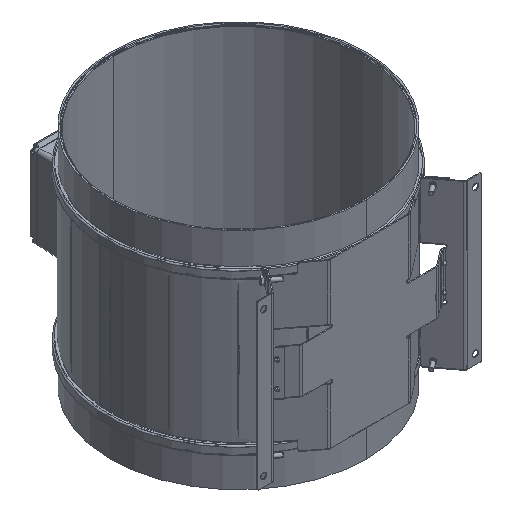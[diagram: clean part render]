
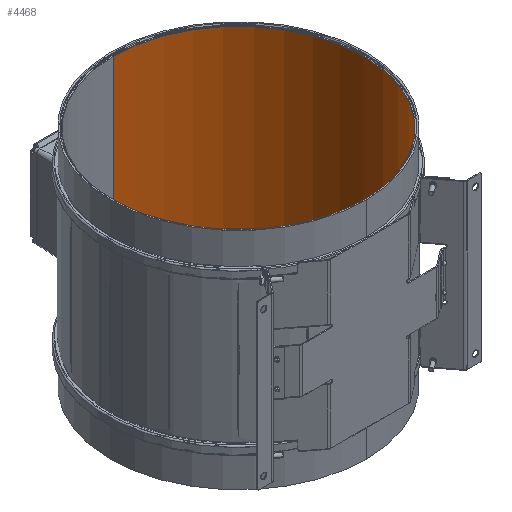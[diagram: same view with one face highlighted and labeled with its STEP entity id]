
A CAD part, isometric view. The second image highlights one B-rep face of the part: STEP entity #4468.
In plain terms, the highlighted cylindrical face has radius 194.655 mm (diameter 389.31 mm), a partial arc.
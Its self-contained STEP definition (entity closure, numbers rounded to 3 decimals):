
#107 = CARTESIAN_POINT ( 'NONE',  ( 194.655, 0., -111.362 ) ) ;
#235 = CARTESIAN_POINT ( 'NONE',  ( 0., -194.655, -458.362 ) ) ;
#273 = CARTESIAN_POINT ( 'NONE',  ( 7.5, 194.51, -331.862 ) ) ;
#2331 = DIRECTION ( 'NONE',  ( 0., 0., 1. ) ) ;
#3046 = CARTESIAN_POINT ( 'NONE',  ( 7.5, 194.51, -851.452 ) ) ;
#3556 = VERTEX_POINT ( 'NONE', #26568 ) ;
#3586 = VERTEX_POINT ( 'NONE', #27114 ) ;
#3591 = VERTEX_POINT ( 'NONE', #26605 ) ;
#3680 = VERTEX_POINT ( 'NONE', #26690 ) ;
#3681 = VERTEX_POINT ( 'NONE', #26695 ) ;
#4468 = ADVANCED_FACE ( 'NONE', ( #37453 ), #37440, .F. ) ;
#4801 = AXIS2_PLACEMENT_3D ( 'NONE', #8715, #8587, #8544 ) ;
#5606 = VECTOR ( 'NONE', #2331, 1000. ) ;
#5793 = LINE ( 'NONE', #3046, #5606 ) ;
#5880 = LINE ( 'NONE', #8557, #5941 ) ;
#5941 = VECTOR ( 'NONE', #8651, 1000. ) ;
#8544 = DIRECTION ( 'NONE',  ( 1., 0., 0. ) ) ;
#8557 = CARTESIAN_POINT ( 'NONE',  ( 0., -194.655, 0. ) ) ;
#8587 = DIRECTION ( 'NONE',  ( 0., 0., 1. ) ) ;
#8651 = DIRECTION ( 'NONE',  ( 0., 0., 1. ) ) ;
#8715 = CARTESIAN_POINT ( 'NONE',  ( 0., 0., -111.362 ) ) ;
#10516 = ORIENTED_EDGE ( 'NONE', *, *, #22758, .F. ) ;
#10754 = ORIENTED_EDGE ( 'NONE', *, *, #35493, .F. ) ;
#10866 = ORIENTED_EDGE ( 'NONE', *, *, #35306, .T. ) ;
#11112 = ORIENTED_EDGE ( 'NONE', *, *, #35176, .F. ) ;
#11129 = ORIENTED_EDGE ( 'NONE', *, *, #35173, .F. ) ;
#11215 = ORIENTED_EDGE ( 'NONE', *, *, #35708, .F. ) ;
#11281 = ORIENTED_EDGE ( 'NONE', *, *, #23000, .T. ) ;
#12253 = ORIENTED_EDGE ( 'NONE', *, *, #22744, .F. ) ;
#13366 = EDGE_LOOP ( 'NONE', ( #11129, #11281, #10866, #14310, #13921, #11112, #11215, #10754, #10516, #12253 ) ) ;
#13921 = ORIENTED_EDGE ( 'NONE', *, *, #35269, .T. ) ;
#14310 = ORIENTED_EDGE ( 'NONE', *, *, #23720, .T. ) ;
#16054 = AXIS2_PLACEMENT_3D ( 'NONE', #32624, #31570, #31695 ) ;
#16468 = AXIS2_PLACEMENT_3D ( 'NONE', #20833, #20904, #21050 ) ;
#16818 = AXIS2_PLACEMENT_3D ( 'NONE', #26084, #26912, #26614 ) ;
#17033 = CIRCLE ( 'NONE', #16468, 194.655 ) ;
#17341 = CIRCLE ( 'NONE', #16054, 194.655 ) ;
#20484 = CARTESIAN_POINT ( 'NONE',  ( 7.004, 194.529, -344.235 ) ) ;
#20561 = CARTESIAN_POINT ( 'NONE',  ( 6.762, 194.538, -344.336 ) ) ;
#20574 = CARTESIAN_POINT ( 'NONE',  ( 7.5, 194.51, -343.626 ) ) ;
#20618 = CARTESIAN_POINT ( 'NONE',  ( 7.391, 194.515, -343.885 ) ) ;
#20833 = CARTESIAN_POINT ( 'NONE',  ( 0., 0., -344.362 ) ) ;
#20835 = CARTESIAN_POINT ( 'NONE',  ( 6.632, 194.542, -344.362 ) ) ;
#20904 = DIRECTION ( 'NONE',  ( 0., 0., -1. ) ) ;
#20997 = CARTESIAN_POINT ( 'NONE',  ( 6.5, 194.546, -344.362 ) ) ;
#21023 = CARTESIAN_POINT ( 'NONE',  ( 7.114, 194.525, -344.161 ) ) ;
#21050 = DIRECTION ( 'NONE',  ( -1., 0., 0. ) ) ;
#21194 = CARTESIAN_POINT ( 'NONE',  ( 7.5, 194.51, -343.362 ) ) ;
#22744 = EDGE_CURVE ( 'NONE', #3586, #31780, #17033, .T. ) ;
#22758 = EDGE_CURVE ( 'NONE', #31780, #3556, #35799, .T. ) ;
#23000 = EDGE_CURVE ( 'NONE', #3680, #31806, #17341, .T. ) ;
#23720 = EDGE_CURVE ( 'NONE', #32679, #32732, #33547, .T. ) ;
#26084 = CARTESIAN_POINT ( 'NONE',  ( 0., 0., -111.362 ) ) ;
#26568 = CARTESIAN_POINT ( 'NONE',  ( 7.5, 194.51, -343.362 ) ) ;
#26605 = CARTESIAN_POINT ( 'NONE',  ( 0., 194.655, -324.362 ) ) ;
#26614 = DIRECTION ( 'NONE',  ( 1., 0., 0. ) ) ;
#26690 = CARTESIAN_POINT ( 'NONE',  ( 0., 194.655, -458.362 ) ) ;
#26695 = CARTESIAN_POINT ( 'NONE',  ( 0., 194.655, -111.362 ) ) ;
#26864 = DIRECTION ( 'NONE',  ( 0., 0., 1. ) ) ;
#26874 = CARTESIAN_POINT ( 'NONE',  ( 0., 0., 0. ) ) ;
#26882 = DIRECTION ( 'NONE',  ( 0., -1., 0. ) ) ;
#26912 = DIRECTION ( 'NONE',  ( 0., 0., 1. ) ) ;
#27114 = CARTESIAN_POINT ( 'NONE',  ( 0., 194.655, -344.362 ) ) ;
#29185 = CARTESIAN_POINT ( 'NONE',  ( 7.5, 194.51, -331.862 ) ) ;
#29364 = CARTESIAN_POINT ( 'NONE',  ( 7.451, 194.512, -330.879 ) ) ;
#29369 = CARTESIAN_POINT ( 'NONE',  ( 7.5, 194.51, -331.366 ) ) ;
#29383 = CARTESIAN_POINT ( 'NONE',  ( 5.967, 194.564, -327.292 ) ) ;
#29387 = CARTESIAN_POINT ( 'NONE',  ( 6.511, 194.546, -328.107 ) ) ;
#29391 = CARTESIAN_POINT ( 'NONE',  ( 6.741, 194.538, -328.537 ) ) ;
#29394 = CARTESIAN_POINT ( 'NONE',  ( 7.023, 194.528, -329.218 ) ) ;
#29397 = CARTESIAN_POINT ( 'NONE',  ( 7.107, 194.525, -329.452 ) ) ;
#29400 = CARTESIAN_POINT ( 'NONE',  ( 7.249, 194.52, -329.923 ) ) ;
#29405 = CARTESIAN_POINT ( 'NONE',  ( 7.309, 194.518, -330.161 ) ) ;
#29581 = CARTESIAN_POINT ( 'NONE',  ( 5.651, 194.573, -326.906 ) ) ;
#29627 = CARTESIAN_POINT ( 'NONE',  ( 3.968, 194.615, -325.493 ) ) ;
#29631 = CARTESIAN_POINT ( 'NONE',  ( 2.421, 194.64, -324.759 ) ) ;
#29749 = CARTESIAN_POINT ( 'NONE',  ( 4.96, 194.592, -326.214 ) ) ;
#29750 = CARTESIAN_POINT ( 'NONE',  ( 3.755, 194.619, -325.365 ) ) ;
#29751 = CARTESIAN_POINT ( 'NONE',  ( 2.881, 194.634, -324.924 ) ) ;
#29753 = CARTESIAN_POINT ( 'NONE',  ( 4.582, 194.601, -325.904 ) ) ;
#29755 = CARTESIAN_POINT ( 'NONE',  ( 1.952, 194.645, -324.616 ) ) ;
#29770 = CARTESIAN_POINT ( 'NONE',  ( 1.712, 194.648, -324.555 ) ) ;
#29772 = CARTESIAN_POINT ( 'NONE',  ( 0.985, 194.653, -324.41 ) ) ;
#29773 = CARTESIAN_POINT ( 'NONE',  ( 3.323, 194.627, -325.133 ) ) ;
#29774 = CARTESIAN_POINT ( 'NONE',  ( 0.495, 194.655, -324.362 ) ) ;
#29775 = CARTESIAN_POINT ( 'NONE',  ( 0., 194.655, -324.362 ) ) ;
#31570 = DIRECTION ( 'NONE',  ( 0., 0., -1. ) ) ;
#31695 = DIRECTION ( 'NONE',  ( 0., 1., 0. ) ) ;
#31780 = VERTEX_POINT ( 'NONE', #40625 ) ;
#31806 = VERTEX_POINT ( 'NONE', #235 ) ;
#32624 = CARTESIAN_POINT ( 'NONE',  ( 0., 0., -458.362 ) ) ;
#32679 = VERTEX_POINT ( 'NONE', #40559 ) ;
#32732 = VERTEX_POINT ( 'NONE', #107 ) ;
#32845 = VERTEX_POINT ( 'NONE', #273 ) ;
#33547 = CIRCLE ( 'NONE', #16818, 194.655 ) ;
#35173 = EDGE_CURVE ( 'NONE', #3680, #3586, #36638, .T. ) ;
#35176 = EDGE_CURVE ( 'NONE', #3591, #3681, #36715, .T. ) ;
#35269 = EDGE_CURVE ( 'NONE', #32732, #3681, #37031, .T. ) ;
#35306 = EDGE_CURVE ( 'NONE', #31806, #32679, #5880, .T. ) ;
#35493 = EDGE_CURVE ( 'NONE', #3556, #32845, #5793, .T. ) ;
#35708 = EDGE_CURVE ( 'NONE', #32845, #3591, #36382, .T. ) ;
#35799 = B_SPLINE_CURVE_WITH_KNOTS ( 'NONE', 3,
 ( #20997, #20835, #20561, #20484, #21023, #20618, #20574, #21194 ),
 .UNSPECIFIED., .F., .F.,
 ( 4, 2, 2, 4 ),
 ( 0., 0., 0.001, 0.002 ),
 .UNSPECIFIED. ) ;
#36382 = B_SPLINE_CURVE_WITH_KNOTS ( 'NONE', 3,
 ( #29185, #29369, #29364, #29405, #29400, #29397, #29394, #29391, #29387, #29383, #29581, #29749, #29753, #29627, #29750, #29773, #29751, #29631, #29755, #29770, #29772, #29774, #29775 ),
 .UNSPECIFIED., .F., .F.,
 ( 4, 2, 2, 2, 2, 2, 2, 2, 1, 2, 2, 4 ),
 ( 0., 0.001, 0.002, 0.003, 0.004, 0.006, 0.007, 0.008, 0.009, 0.01, 0.01, 0.012 ),
 .UNSPECIFIED. ) ;
#36638 = LINE ( 'NONE', #41321, #36960 ) ;
#36660 = VECTOR ( 'NONE', #41336, 1000. ) ;
#36715 = LINE ( 'NONE', #40774, #36660 ) ;
#36960 = VECTOR ( 'NONE', #41163, 1000. ) ;
#37031 = CIRCLE ( 'NONE', #4801, 194.655 ) ;
#37440 = CYLINDRICAL_SURFACE ( 'NONE', #37822, 194.655 ) ;
#37453 = FACE_OUTER_BOUND ( 'NONE', #13366, .T. ) ;
#37822 = AXIS2_PLACEMENT_3D ( 'NONE', #26874, #26864, #26882 ) ;
#40559 = CARTESIAN_POINT ( 'NONE',  ( 0., -194.655, -111.362 ) ) ;
#40625 = CARTESIAN_POINT ( 'NONE',  ( 6.5, 194.546, -344.362 ) ) ;
#40774 = CARTESIAN_POINT ( 'NONE',  ( 0., 194.655, 0. ) ) ;
#41163 = DIRECTION ( 'NONE',  ( 0., 0., 1. ) ) ;
#41321 = CARTESIAN_POINT ( 'NONE',  ( 0., 194.655, 0. ) ) ;
#41336 = DIRECTION ( 'NONE',  ( 0., 0., 1. ) ) ;
